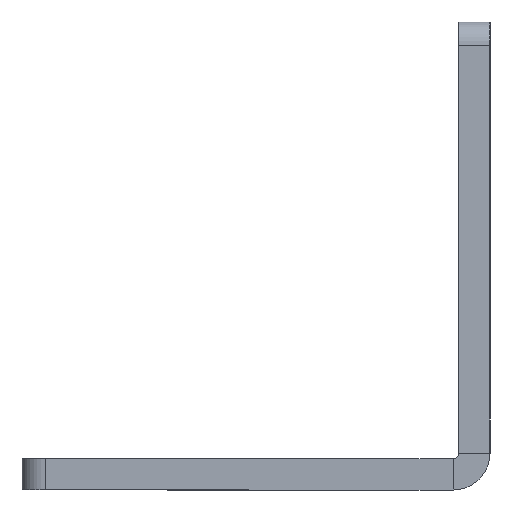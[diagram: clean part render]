
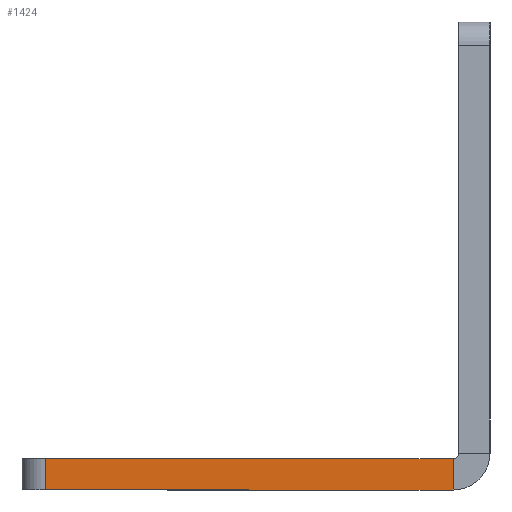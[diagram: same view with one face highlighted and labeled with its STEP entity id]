
A CAD part, left-side view. The second image highlights one B-rep face of the part: STEP entity #1424.
In plain terms, the highlighted planar face has unit normal (-1, 0, 0).
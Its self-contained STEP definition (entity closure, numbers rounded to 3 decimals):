
#42 = PLANE ( 'NONE',  #1496 ) ;
#58 = ORIENTED_EDGE ( 'NONE', *, *, #1448, .F. ) ;
#356 = EDGE_CURVE ( 'NONE', #1133, #600, #1023, .T. ) ;
#361 = CARTESIAN_POINT ( 'NONE',  ( -42.5, 60., 4. ) ) ;
#398 = VERTEX_POINT ( 'NONE', #1275 ) ;
#415 = EDGE_CURVE ( 'NONE', #398, #1133, #1954, .T. ) ;
#478 = VECTOR ( 'NONE', #1254, 1000. ) ;
#527 = VECTOR ( 'NONE', #1311, 1000. ) ;
#600 = VERTEX_POINT ( 'NONE', #1415 ) ;
#805 = CARTESIAN_POINT ( 'NONE',  ( -42.5, 57., 4. ) ) ;
#880 = CARTESIAN_POINT ( 'NONE',  ( -42.5, 4.737, 0. ) ) ;
#1023 = LINE ( 'NONE', #1426, #527 ) ;
#1061 = ORIENTED_EDGE ( 'NONE', *, *, #1080, .T. ) ;
#1071 = ORIENTED_EDGE ( 'NONE', *, *, #415, .T. ) ;
#1080 = EDGE_CURVE ( 'NONE', #2426, #398, #2299, .T. ) ;
#1133 = VERTEX_POINT ( 'NONE', #880 ) ;
#1142 = DIRECTION ( 'NONE',  ( 0., -1., 0. ) ) ;
#1165 = ORIENTED_EDGE ( 'NONE', *, *, #356, .T. ) ;
#1254 = DIRECTION ( 'NONE',  ( 0., -1., 0. ) ) ;
#1275 = CARTESIAN_POINT ( 'NONE',  ( -42.5, 57., 0. ) ) ;
#1311 = DIRECTION ( 'NONE',  ( 0., 0., 1. ) ) ;
#1415 = CARTESIAN_POINT ( 'NONE',  ( -42.5, 4.737, 4. ) ) ;
#1424 = ADVANCED_FACE ( 'NONE', ( #1909 ), #42, .T. ) ;
#1426 = CARTESIAN_POINT ( 'NONE',  ( -42.5, 4.737, 0. ) ) ;
#1448 = EDGE_CURVE ( 'NONE', #2426, #600, #2049, .T. ) ;
#1471 = VECTOR ( 'NONE', #1142, 1000. ) ;
#1496 = AXIS2_PLACEMENT_3D ( 'NONE', #2253, #2085, #2174 ) ;
#1592 = CARTESIAN_POINT ( 'NONE',  ( -42.5, 60., 0. ) ) ;
#1595 = CARTESIAN_POINT ( 'NONE',  ( -42.5, 57., 4.737 ) ) ;
#1899 = VECTOR ( 'NONE', #1974, 1000. ) ;
#1909 = FACE_OUTER_BOUND ( 'NONE', #1917, .T. ) ;
#1917 = EDGE_LOOP ( 'NONE', ( #58, #1061, #1071, #1165 ) ) ;
#1954 = LINE ( 'NONE', #1592, #478 ) ;
#1974 = DIRECTION ( 'NONE',  ( 0., 0., -1. ) ) ;
#2049 = LINE ( 'NONE', #361, #1471 ) ;
#2085 = DIRECTION ( 'NONE',  ( -1., 0., 0. ) ) ;
#2174 = DIRECTION ( 'NONE',  ( 0., 0., 1. ) ) ;
#2253 = CARTESIAN_POINT ( 'NONE',  ( -42.5, 4., 4.737 ) ) ;
#2299 = LINE ( 'NONE', #1595, #1899 ) ;
#2426 = VERTEX_POINT ( 'NONE', #805 ) ;
